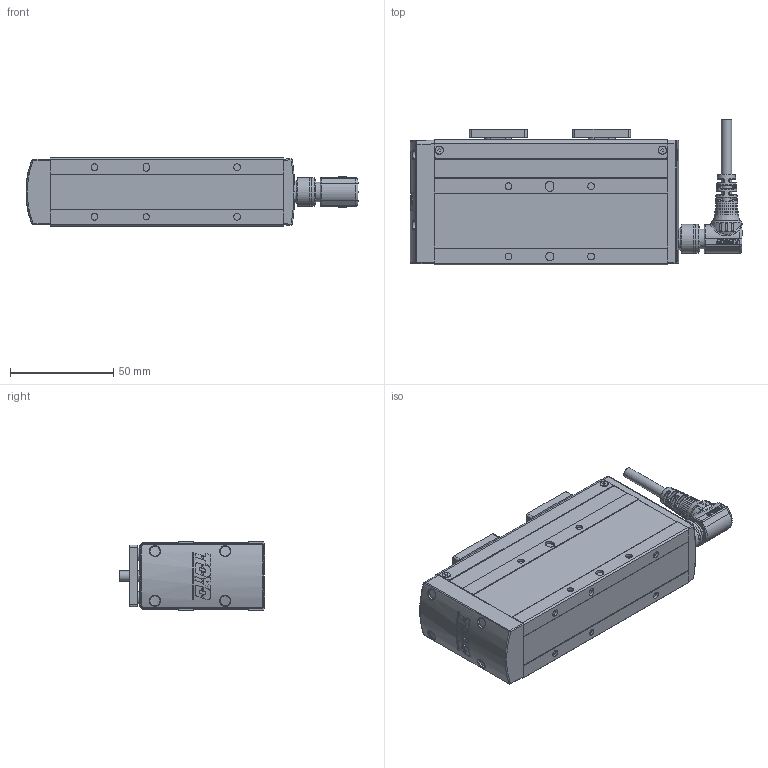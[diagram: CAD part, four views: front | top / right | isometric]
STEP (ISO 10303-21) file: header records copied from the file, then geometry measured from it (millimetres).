
FILE_DESCRIPTION(/* description */ ('STEP AP203'),/* implementation_level */ '2;1');
FILE_NAME(/* name */ 'D:\2025.02.25 帶電匯整給泊舟\3. CHS2系列\4.3D組立\2B-S40\CHS2B-S40-WM.stp',/* time_stamp */ '2025-02-25T17:48:19+08:00',/* author */ ('T10033'),/* organization */ (''),/* preprocessor_version */ 'ST-DEVELOPER v18.1',/* originating_system */ 'Autodesk Inventor 2020',/* authorisation */ '');
FILE_SCHEMA (('CONFIG_CONTROL_DESIGN'));
Products named in the file (7): CHS2C-S40; iso 4762 m2.5 x 6 - 6s_ISO 4762 M2.5 x 6 - 6S; M12 -14PIN  板端-第一種規格; 43T63W4YGT_Shrinkwrap_1; M12-14PIN 線端90度接頭-05中繼線; 12004-000154-03; 22012-000313_M3L10內六角
Assembly tree (15 placements, depth 2):
  CHS2C-S40
    iso 4762 m2.5 x 6 - 6s_ISO 4762 M2.5 x 6 - 6S  x2
    M12 -14PIN  板端-第一種規格
    43T63W4YGT_Shrinkwrap_1
    M12-14PIN 線端90度接頭-05中繼線
    12004-000154-03  x2
    22012-000313_M3L10內六角  x8
Bounding box: 160.72 x 70.55 x 33 mm (x, y, z)
Volume: 250897.2 mm3; surface area: 47232.3 mm2
Topology: 29 solids, 34 shells, 2595 faces, 7473 edges, 5072 vertices
Faces by surface type: plane 1141, cone 602, cylinder 584, bspline 159, torus 105, sphere 4
Full cylindrical faces by diameter (mm): 0.6 x14, 0.65 x14, 1 x14, 2 x4, 2.5 x30, 3 x149, 3.2 x8, 3.3 x12, 3.8 x4, 4 x2, 4.5 x2, 5 x1, 5.5 x8, 6 x8, 8 x1, 8.9 x1, 9.5 x2, 9.6 x1, 10.5 x2, 10.9 x1, 11 x2, 11.2 x1, 11.25 x1, 12 x1, 13 x1, 13.8 x1, 14 x2, 14.4 x1, 18.079 x1
Entity records: 91435 total; most frequent: CARTESIAN_POINT 38292, ORIENTED_EDGE 10878, DIRECTION 10670, EDGE_CURVE 5457, AXIS2_PLACEMENT_3D 4019, VERTEX_POINT 3655, LINE 2632, VECTOR 2632
